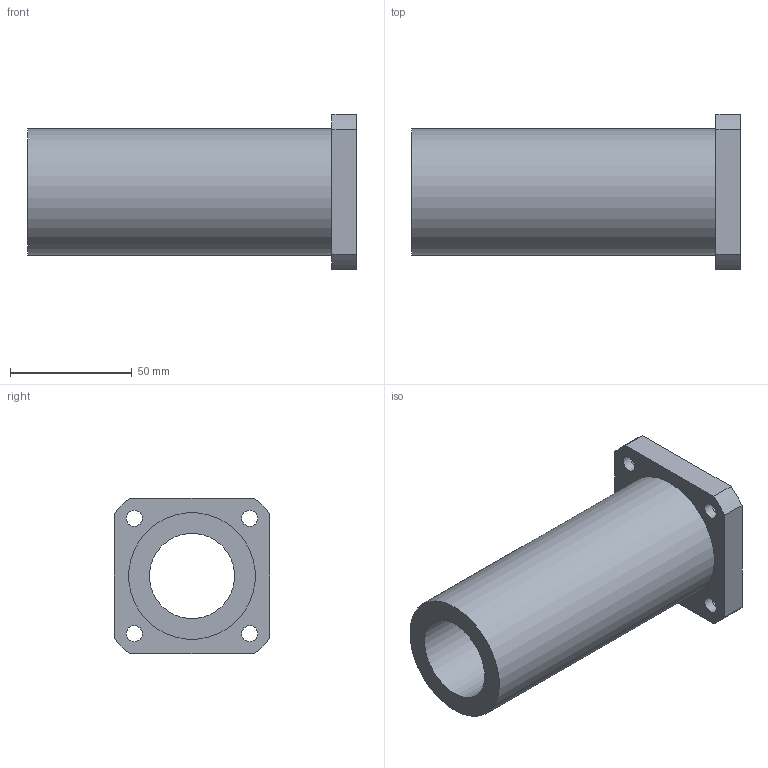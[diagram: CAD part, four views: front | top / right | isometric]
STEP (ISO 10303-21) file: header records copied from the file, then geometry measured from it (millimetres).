
FILE_DESCRIPTION(/* description */ (''),/* implementation_level */ '2;1');
FILE_NAME(/* name */ 'LMK35LUU',/* time_stamp */ '2019-07-09T15:48:47+02:00',/* author */ ('VĂ©gh MĂˇtĂ©'),/* organization */ ('Bearing Kft'),/* preprocessor_version */ 'ST-DEVELOPER v16.7',/* originating_system */ 'DEX',/* authorisation */ $);
FILE_SCHEMA (('AUTOMOTIVE_DESIGN {1 0 10303 214 3 1 1}'));
Length unit declared in the file: millimetre
Products named in the file (1): LMK35LUU
Bounding box: 135 x 64 x 64 mm (x, y, z)
Volume: 172928.4 mm3; surface area: 44717.6 mm2
Topology: 1 solids, 1 shells, 338 faces, 855 edges, 570 vertices
Faces by surface type: plane 261, bspline 61, cylinder 16
Full cylindrical faces by diameter (mm): 6.6 x4, 11 x4, 35 x1, 52 x1
Entity records: 13102 total; most frequent: CARTESIAN_POINT 5316, ORIENTED_EDGE 1688, DIRECTION 1310, EDGE_CURVE 844, LINE 690, VECTOR 690, VERTEX_POINT 570, EDGE_LOOP 410
